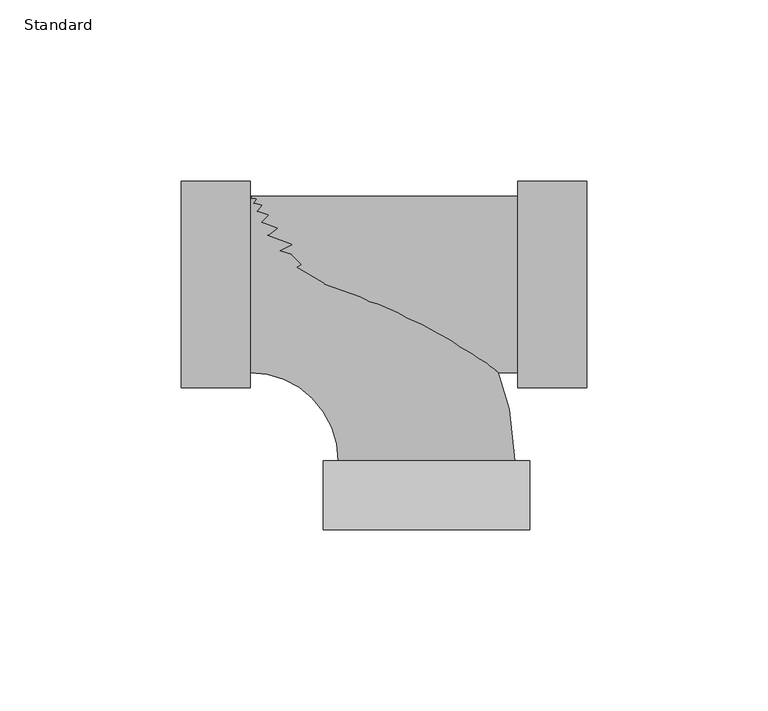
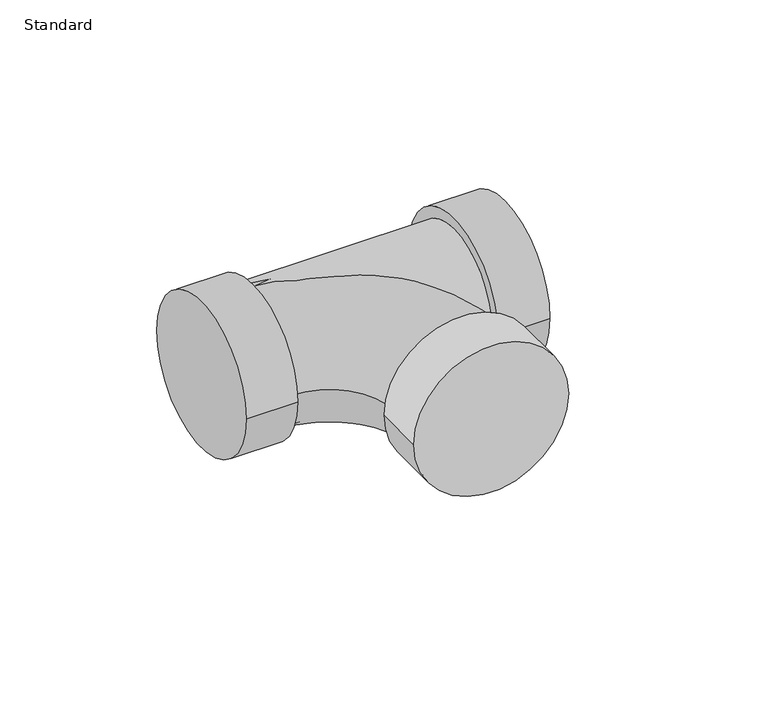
"""IFC4 building model written with IfcOpenShell, lengths in millimetres: pipe fitting geometry, Tee_Lubrizol_CPVC-FlowGuard_MX : Standard."""

import ifcopenshell
import ifcopenshell.guid

model = None  # the IFC model being written
_history = None  # IfcOwnerHistory: only IFC2X3 demands one
_inside = {}  # id of a spatial element -> (the spatial element, [elements in it])
_under = {}  # id of a project, library or spatial element -> (it, [spatial elements below it])
_declared = {}  # id of a project -> (the project, [libraries it declares])
_typed = {}  # id of a type object -> (the type object, [elements of that type])
_made_of = {}  # id of a material, layer set ... -> (it, [elements and type objects made of it])


def new_model(schema):
    """Start an empty IFC model of exactly this schema.

    Asked for "IFC4X3", IfcOpenShell would pick the latest addendum, in which some entities
    have other attributes; the version numbers below select the first issue.
    IFC2X3 requires an IfcOwnerHistory on every rooted entity: one is made here for all.
    """
    global model, _history
    if schema == "IFC4X3":
        model = ifcopenshell.file(schema_version=(4, 3, 0, 0))
    else:
        model = ifcopenshell.file(schema=schema)
    _inside.clear()
    _under.clear()
    _declared.clear()
    _typed.clear()
    _made_of.clear()
    _history = None
    if model.schema == "IFC2X3":
        org = make("IfcOrganization", Name="unknown")
        user = make(
            "IfcPersonAndOrganization",
            ThePerson=make("IfcPerson", FamilyName="unknown"),
            TheOrganization=org,
        )
        app = make(
            "IfcApplication",
            ApplicationDeveloper=org,
            Version="unknown",
            ApplicationFullName="unknown",
            ApplicationIdentifier="unknown",
        )
        _history = make(
            "IfcOwnerHistory",
            OwningUser=user,
            OwningApplication=app,
            ChangeAction="ADDED",
            CreationDate=0,
        )
    return model


def make(cls, **values):
    """One entity of the class cls with the attributes given. An attribute that is None is left unset."""
    return model.create_entity(
        cls, **{name: value for name, value in values.items() if value is not None}
    )


def rooted(cls, **values):
    """An entity with a GlobalId (a new one), such as an element, a storey or a relation."""
    return make(cls, GlobalId=ifcopenshell.guid.new(), OwnerHistory=_history, **values)


def si_unit(unit_type, name, prefix=None):
    """IfcSIUnit, for example si_unit("LENGTHUNIT", "METRE", prefix="MILLI")."""
    return make("IfcSIUnit", UnitType=unit_type, Prefix=prefix, Name=name)


def assignment(units):
    """IfcUnitAssignment: the units of a project."""
    return None if units is None else make("IfcUnitAssignment", Units=units)


def point(xyz):
    """IfcCartesianPoint."""
    return None if xyz is None else make("IfcCartesianPoint", Coordinates=xyz)


def direction(xyz):
    """IfcDirection."""
    return None if xyz is None else make("IfcDirection", DirectionRatios=xyz)


def frame(location, z_axis=None, x_axis=None):
    """IfcAxis2Placement3D, a coordinate frame: its origin and axes. An axis left out is left unset."""
    return make(
        "IfcAxis2Placement3D",
        Location=point(location),
        Axis=direction(z_axis),
        RefDirection=direction(x_axis),
    )


def origin():
    """The frame at (0, 0, 0) with its axes left unset."""
    return frame((0.0, 0.0, 0.0))


def place(relative_to, where):
    """IfcLocalPlacement: puts the frame where relative to a parent placement (None: the world)."""
    return make(
        "IfcLocalPlacement", PlacementRelTo=relative_to, RelativePlacement=where
    )


def context(
    kind, dimensions, precision=None, world=None, true_north=None, identifier=None
):
    """IfcGeometricRepresentationContext, for example the 3D "Model" context."""
    return make(
        "IfcGeometricRepresentationContext",
        ContextIdentifier=identifier,
        ContextType=kind,
        CoordinateSpaceDimension=dimensions,
        Precision=precision,
        WorldCoordinateSystem=world,
        TrueNorth=true_north,
    )


def project(units=None, contexts=None):
    """IfcProject with its units and contexts."""
    return rooted(
        "IfcProject",
        Name="project",
        RepresentationContexts=contexts,
        UnitsInContext=assignment(units),
    )


def spatial(cls, under=None, at=None, **own):
    """A site, building, storey or space (cls), placed at a placement, below another one or the project."""
    s = rooted(cls, ObjectPlacement=at, **own)
    if under is not None:
        _under.setdefault(under.id(), (under, []))[1].append(s)
    return s


def circle_curve(where, radius):
    """IfcCircle in the frame where."""
    return make("IfcCircle", Position=where, Radius=radius)


def ellipse_curve(where, semi_axis1, semi_axis2):
    """IfcEllipse in the frame where."""
    return make(
        "IfcEllipse", Position=where, SemiAxis1=semi_axis1, SemiAxis2=semi_axis2
    )


def trimmed(basis, trim1, trim2, sense, master):
    """IfcTrimmedCurve: the piece of a basis curve between two trims."""
    return make(
        "IfcTrimmedCurve",
        BasisCurve=basis,
        Trim1=trim1,
        Trim2=trim2,
        SenseAgreement=sense,
        MasterRepresentation=master,
    )


def shape(context_of_items, identifier, shape_type, items):
    """IfcShapeRepresentation: the items that make up one representation, for example the "Body"."""
    return make(
        "IfcShapeRepresentation",
        ContextOfItems=context_of_items,
        RepresentationIdentifier=identifier,
        RepresentationType=shape_type,
        Items=items,
    )


def source(mapping_origin, context_of_items, identifier, shape_type, items):
    """IfcRepresentationMap: a shape defined once, which mapped items show again and again."""
    return make(
        "IfcRepresentationMap",
        MappingOrigin=mapping_origin,
        MappedRepresentation=shape(context_of_items, identifier, shape_type, items),
    )


def transform(
    local_origin,
    x_axis=None,
    y_axis=None,
    z_axis=None,
    scale=None,
    scale2=None,
    scale3=None,
    uniform=True,
):
    """IfcCartesianTransformationOperator3D, or its non-uniform kind. x_axis, y_axis, z_axis: its Axis1, 2, 3."""
    if uniform:
        return make(
            "IfcCartesianTransformationOperator3D",
            Axis1=direction(x_axis),
            Axis2=direction(y_axis),
            LocalOrigin=point(local_origin),
            Scale=scale,
            Axis3=direction(z_axis),
        )
    return make(
        "IfcCartesianTransformationOperator3DnonUniform",
        Axis1=direction(x_axis),
        Axis2=direction(y_axis),
        LocalOrigin=point(local_origin),
        Scale=scale,
        Axis3=direction(z_axis),
        Scale2=scale2,
        Scale3=scale3,
    )


def mapped(mapping_source, mapping_target):
    """IfcMappedItem: shows the shape of a source again, moved by a transform."""
    return make(
        "IfcMappedItem", MappingSource=mapping_source, MappingTarget=mapping_target
    )


def made_of(thing, what):
    """Note that an element or type object is made of a material, layer set ...; save() writes the relation."""
    if what is not None:
        _made_of.setdefault(what.id(), (what, []))[1].append(thing)
    return thing


def element(
    cls,
    number,
    at=None,
    inside=None,
    cuts=None,
    type_object=None,
    material=None,
    context=None,
    identifier="Body",
    shape_type=None,
    held_by="IfcProductDefinitionShape",
    body=None,
    shapes=None,
    **own,
):
    """One element of the class cls, such as IfcWall. Its Tag is "e" and its number.

    at: its placement. inside: the storey or other place that contains it. cuts: it is an
    opening in that element (IfcRelVoidsElement). A single representation is given by context,
    identifier, shape_type and body (its items); several are given by shapes. held_by: the class
    of the entity that holds the representations. save() writes the other relations.
    """
    e = rooted(cls, Tag="e%d" % number, ObjectPlacement=at, **own)
    if body is not None:
        shapes = [shape(context, identifier, shape_type, body)]
    if shapes is not None:
        e.Representation = make(held_by, Representations=shapes)
    if inside is not None:
        _inside.setdefault(inside.id(), (inside, []))[1].append(e)
    if cuts is not None:
        rooted(
            "IfcRelVoidsElement", RelatingBuildingElement=cuts, RelatedOpeningElement=e
        )
    if type_object is not None:
        _typed.setdefault(type_object.id(), (type_object, []))[1].append(e)
    return made_of(e, material)


def aggregate(whole, parts):
    """IfcRelAggregates: a whole, such as a stair, and the parts it consists of."""
    return rooted("IfcRelAggregates", RelatingObject=whole, RelatedObjects=parts)


def save(model, path):
    """Write the relations noted so far, then the file.

    IfcRelAggregates (storeys below a building ...), IfcRelContainedInSpatialStructure (elements
    in a storey), IfcRelDefinesByType, IfcRelAssociatesMaterial and IfcRelDeclares: one each for
    every whole, place, type object, material and project.
    """
    for whole, parts in _under.values():
        aggregate(whole, parts)
    for where, things in _inside.values():
        rooted(
            "IfcRelContainedInSpatialStructure",
            RelatedElements=things,
            RelatingStructure=where,
        )
    for kind, things in _typed.values():
        rooted("IfcRelDefinesByType", RelatedObjects=things, RelatingType=kind)
    for what, things in _made_of.values():
        rooted("IfcRelAssociatesMaterial", RelatedObjects=things, RelatingMaterial=what)
    for by, libraries in _declared.values():
        rooted("IfcRelDeclares", RelatingContext=by, RelatedDefinitions=libraries)
    model.write(path)


def plane_surface(at):
    """IfcPlane: the flat surface through the origin of the frame at, square to its z axis."""
    return make("IfcPlane", Position=at)


def cylinder_surface(at, radius):
    """IfcCylindricalSurface: all points at the distance radius from the z axis of the frame at."""
    return make("IfcCylindricalSurface", Position=at, Radius=radius)


def revolved_surface(curve, axis_point, axis_direction):
    """IfcSurfaceOfRevolution: the curve turned about the line through axis_point along axis_direction."""
    return make(
        "IfcSurfaceOfRevolution",
        SweptCurve=make("IfcArbitraryOpenProfileDef", ProfileType="CURVE", Curve=curve),
        AxisPosition=make("IfcAxis1Placement", Location=point(axis_point), Axis=direction(axis_direction)),
    )


def advanced_brep(points, edges, surfaces, faces):
    """IfcAdvancedBrep: a solid bounded by faces that lie on surfaces and meet in shared edges.

    An edge is (start, end): straight between two places in points (the first is 0);
    or (start, end, curve); or (start, end, curve, False) where it runs against its curve.
    A face is (place in surfaces, loops), or (place, loops, False) where it looks against
    its surface's normal. A loop lists edges by number (the first is 1), with a minus sign
    where the edge is run from its end to its start. The first loop is the outer one.
    """
    corners = [point(p) for p in points]
    vertices = [make("IfcVertexPoint", VertexGeometry=c) for c in corners]
    made = []
    for start, end, *more in edges:
        made.append(
            make(
                "IfcEdgeCurve",
                EdgeStart=vertices[start],
                EdgeEnd=vertices[end],
                EdgeGeometry=more[0] if more else make("IfcPolyline", Points=[corners[start], corners[end]]),
                SameSense=more[1] if len(more) > 1 else True,
            )
        )
    hull = []
    for where, loops, *sense in faces:
        bounds = []
        for j, loop in enumerate(loops):
            ring = [make("IfcOrientedEdge", EdgeElement=made[abs(k) - 1], Orientation=k > 0) for k in loop]
            bounds.append(
                make(
                    "IfcFaceOuterBound" if j == 0 else "IfcFaceBound",
                    Bound=make("IfcEdgeLoop", EdgeList=ring),
                    Orientation=True,
                )
            )
        hull.append(make("IfcAdvancedFace", Bounds=bounds, FaceSurface=surfaces[where], SameSense=sense[0] if sense else True))
    return make("IfcAdvancedBrep", Outer=make("IfcClosedShell", CfsFaces=hull))


def standard_768752a3(model_context):
    return source(origin(), model_context, "Body", "AdvancedBrep", [
        advanced_brep(
        [(-48.6940625, -24.3240625, 0.0), (-48.6940625, 24.3240625, 0.0), (-24.3240625, -48.6940625, 0.0), (24.3240625, -48.6940625, 0.0), (28.5071094, -67.6940625, 0.0), (-28.5071094, -67.6940625, 0.0), (28.5071094, -48.6940625, 0.0), (-28.5071094, -48.6940625, 0.0)],
        [
            (0, 1, circle_curve(frame((-48.6940625, 0.0, 0.0), z_axis=(-1.0, 0.0, 0.0), x_axis=(0.0, 1.0, 0.0)), 24.3240625)),
            (1, 0, circle_curve(frame((-48.6940625, 0.0, 0.0), z_axis=(-1.0, 0.0, 0.0), x_axis=(0.0, 1.0, 0.0)), 24.3240625)),
            (0, 2, circle_curve(frame((-48.6940625, -48.6940625, 0.0), z_axis=(0.0, 0.0, -1.0), x_axis=(0.0, 1.0, 0.0)), 24.37)),
            (2, 3, circle_curve(frame((0.0, -48.6940625, 0.0), z_axis=(-1.1395941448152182e-12, 1.0, 0.0), x_axis=(1.0, 1.1395941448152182e-12, 0.0)), 24.3240625)),
            (3, 1, circle_curve(frame((-48.6940625, -48.6940625, 0.0), z_axis=(0.0, 0.0, 1.0), x_axis=(0.0, 1.0, 0.0)), 73.018125)),
            (3, 2, circle_curve(frame((0.0, -48.6940625, 0.0), z_axis=(-1.0287938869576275e-12, 1.0, 0.0), x_axis=(1.0, 1.0287938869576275e-12, 0.0)), 24.3240625)),
            (4, 5, circle_curve(frame((0.0, -67.6940625, 0.0), z_axis=(0.0, -1.0, 0.0), x_axis=(-1.0, 0.0, 0.0)), 28.5071094)),
            (5, 4, circle_curve(frame((0.0, -67.6940625, 0.0), z_axis=(0.0, -1.0, 0.0), x_axis=(-1.0, 0.0, 0.0)), 28.5071094)),
            (6, 7, circle_curve(frame((0.0, -48.6940625, 0.0), z_axis=(0.0, 1.0, 0.0), x_axis=(-1.0, 0.0, 0.0)), 28.5071094)),
            (7, 6, circle_curve(frame((0.0, -48.6940625, 0.0), z_axis=(0.0, 1.0, 0.0), x_axis=(-1.0, 0.0, 0.0)), 28.5071094)),
            (4, 6),
            (7, 5),
        ],
        [
            plane_surface(frame((-48.6940625, 0.0, 0.0), z_axis=(-1.0, 0.0, 0.0), x_axis=(0.0, 0.0, 1.0))),
            revolved_surface(trimmed(ellipse_curve(frame((-48.6940625, 0.0, 0.0), z_axis=(-1.0, 0.0, 0.0), x_axis=(0.0, 1.0, 0.0)), 24.3240625, 24.3240625), [point((-48.6940625, -24.3240625, 0.0))], [point((-48.6940625, 24.3240625, 0.0))], True, "CARTESIAN"), (-48.6940625, -48.6940625, 0.0), (0.0, 0.0, -1.0)),
            revolved_surface(trimmed(ellipse_curve(frame((-48.6940625, 0.0, 0.0), z_axis=(-1.0, 0.0, 0.0), x_axis=(0.0, 1.0, 0.0)), 24.3240625, 24.3240625), [point((-48.6940625, 24.3240625, 0.0))], [point((-48.6940625, -24.3240625, 0.0))], True, "CARTESIAN"), (-48.6940625, -48.6940625, 0.0), (0.0, 0.0, -1.0)),
            plane_surface(frame((0.0, -67.6940625, 0.0), z_axis=(0.0, -1.0, 0.0), x_axis=(0.0, 0.0, 1.0))),
            plane_surface(frame((0.0, -48.6940625, 0.0), z_axis=(0.0, 1.0, 0.0), x_axis=(0.0, 0.0, 1.0))),
            cylinder_surface(frame((0.0, -67.6940625, 0.0), z_axis=(0.0, -1.0, 0.0), x_axis=(-1.0, 0.0, 0.0)), 28.5071094),
        ],
        [
            (0, [[1, 2]]),
            (1, [[-1, 3, 4, 5]]),
            (2, [[-2, -5, 6, -3]]),
            (3, [[7, 8]]),
            (4, [[9, 10], [-4, -6]]),
            (5, [[-7, 11, -10, 12]]),
            (5, [[-8, -12, -9, -11]]),
        ],
    ),
        advanced_brep(
        [(-48.6940625, -24.3240625, 0.0), (25.265625, -24.3240625, 0.0), (25.265625, 24.3240625, 0.0), (-48.6940625, 24.3240625, 0.0), (25.265625, -28.5071094, 0.0), (25.265625, 28.5071094, 0.0), (44.265625, -28.5071094, 0.0), (44.265625, 28.5071094, 0.0), (-67.6940625, -28.5071094, 0.0), (-67.6940625, 28.5071094, 0.0), (-48.6940625, -28.5071094, 0.0), (-48.6940625, 28.5071094, 0.0)],
        [
            (0, 1),
            (1, 2, circle_curve(frame((25.265625, 0.0, 0.0), z_axis=(-1.0, 0.0, 0.0), x_axis=(0.0, 1.0, 0.0)), 24.3240625)),
            (2, 3),
            (3, 0, circle_curve(frame((-48.6940625, 0.0, 0.0), z_axis=(1.0, 0.0, 0.0), x_axis=(0.0, 1.0, 0.0)), 24.3240625)),
            (0, 3, circle_curve(frame((-48.6940625, 0.0, 0.0), z_axis=(1.0, 0.0, 0.0), x_axis=(0.0, 1.0, 0.0)), 24.3240625)),
            (2, 1, circle_curve(frame((25.265625, 0.0, 0.0), z_axis=(-1.0, 0.0, 0.0), x_axis=(0.0, 1.0, 0.0)), 24.3240625)),
            (4, 5, circle_curve(frame((25.265625, 0.0, 0.0), z_axis=(-1.0, 0.0, 0.0), x_axis=(0.0, 1.0, 0.0)), 28.5071094)),
            (5, 4, circle_curve(frame((25.265625, 0.0, 0.0), z_axis=(-1.0, 0.0, 0.0), x_axis=(0.0, 1.0, 0.0)), 28.5071094)),
            (6, 7, circle_curve(frame((44.265625, 0.0, 0.0), z_axis=(1.0, 0.0, 0.0), x_axis=(0.0, 1.0, 0.0)), 28.5071094)),
            (7, 6, circle_curve(frame((44.265625, 0.0, 0.0), z_axis=(1.0, 0.0, 0.0), x_axis=(0.0, 1.0, 0.0)), 28.5071094)),
            (4, 6),
            (7, 5),
            (8, 9, circle_curve(frame((-67.6940625, 0.0, 0.0), z_axis=(-1.0, 0.0, 0.0), x_axis=(0.0, 1.0, 0.0)), 28.5071094)),
            (9, 8, circle_curve(frame((-67.6940625, 0.0, 0.0), z_axis=(-1.0, 0.0, 0.0), x_axis=(0.0, 1.0, 0.0)), 28.5071094)),
            (10, 11, circle_curve(frame((-48.6940625, 0.0, 0.0), z_axis=(1.0, 0.0, 0.0), x_axis=(0.0, 1.0, 0.0)), 28.5071094)),
            (11, 10, circle_curve(frame((-48.6940625, 0.0, 0.0), z_axis=(1.0, 0.0, 0.0), x_axis=(0.0, 1.0, 0.0)), 28.5071094)),
            (8, 10),
            (11, 9),
        ],
        [
            cylinder_surface(frame((-48.6940625, 0.0, 0.0), z_axis=(-1.0, 0.0, 0.0), x_axis=(0.0, 1.0, 0.0)), 24.3240625),
            plane_surface(frame((25.265625, 0.0, 0.0), z_axis=(-1.0, 0.0, 0.0), x_axis=(0.0, 0.0, 1.0))),
            plane_surface(frame((44.265625, 0.0, 0.0), z_axis=(1.0, 0.0, 0.0), x_axis=(0.0, 0.0, 1.0))),
            cylinder_surface(frame((25.265625, 0.0, 0.0), z_axis=(-1.0, 0.0, 0.0), x_axis=(0.0, 1.0, 0.0)), 28.5071094),
            plane_surface(frame((-67.6940625, 0.0, 0.0), z_axis=(-1.0, 0.0, 0.0), x_axis=(0.0, 0.0, 1.0))),
            plane_surface(frame((-48.6940625, 0.0, 0.0), z_axis=(1.0, 0.0, 0.0), x_axis=(0.0, 0.0, 1.0))),
            cylinder_surface(frame((-67.6940625, 0.0, 0.0), z_axis=(-1.0, 0.0, 0.0), x_axis=(0.0, 1.0, 0.0)), 28.5071094),
        ],
        [
            (0, [[1, 2, 3, 4]]),
            (0, [[-1, 5, -3, 6]]),
            (1, [[7, 8], [-2, -6]]),
            (2, [[9, 10]]),
            (3, [[-7, 11, -10, 12]]),
            (3, [[-8, -12, -9, -11]]),
            (4, [[13, 14]]),
            (5, [[15, 16], [-4, -5]]),
            (6, [[-13, 17, -16, 18]]),
            (6, [[-14, -18, -15, -17]]),
        ],
    ),
    ])


if __name__ == "__main__":
    model = new_model("IFC4")
    model_context = context("Model", 3, world=origin())
    ifc_project = project(units=[si_unit("LENGTHUNIT", "METRE", prefix="MILLI")], contexts=[model_context])
    site = spatial("IfcSite", under=ifc_project)
    building = spatial("IfcBuilding", under=site)
    placement = place(None, origin())
    standard_shape = standard_768752a3(model_context)
    element("IfcPipeFitting", 1, ObjectType="Tee_Lubrizol_CPVC-FlowGuard_MX : Standard", at=placement, inside=building, context=model_context, shape_type="MappedRepresentation", body=[
        mapped(standard_shape, transform((0.0, 0.0, 0.0), x_axis=(1.0, 0.0, 0.0), y_axis=(0.0, 1.0, 0.0), z_axis=(0.0, 0.0, 1.0))),
    ])
    save(model, "model.ifc")
